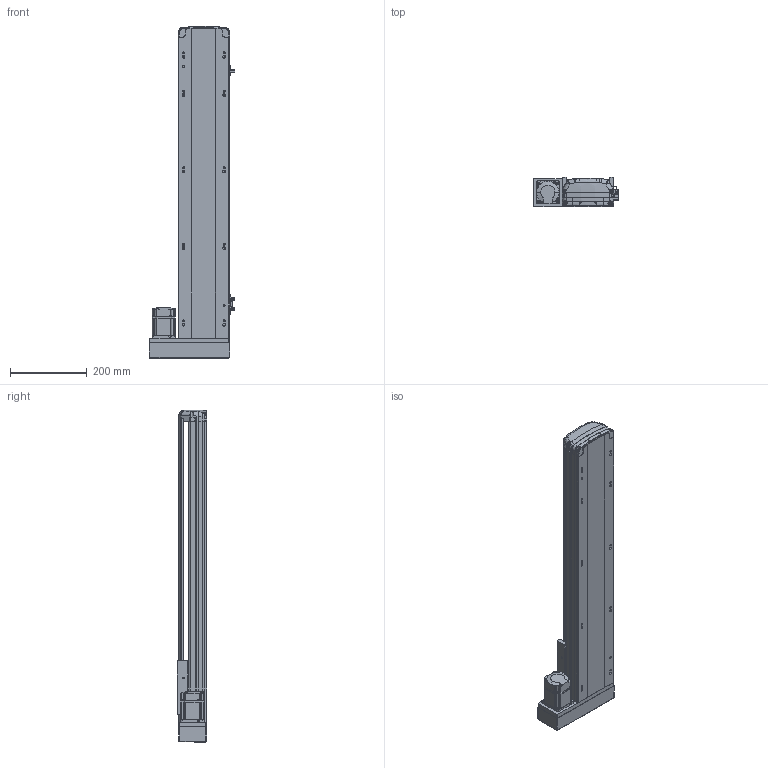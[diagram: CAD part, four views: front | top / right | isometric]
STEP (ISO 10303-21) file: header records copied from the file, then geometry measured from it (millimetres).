
FILE_DESCRIPTION (( 'STEP AP214' ), '1' );
FILE_NAME ('RTH14-XX-600-L-M20-C4.STEP', '2025-10-25T02:38:32', ( 'Microsoft' ), ( 'Microsoft' ), 'SwSTEP 2.0', 'SolidWorks 2018', '' );
FILE_SCHEMA (( 'AUTOMOTIVE_DESIGN' ));
Length unit declared in the file: millimetre
Products named in the file (10): N_RTH14-M-007P奻裔^RTH14-XX-XX-L-M20-C4; N_OMRON EE-SX672 传感器^RTH14-XX-XX-L-M20-C4; N_RTH14-R-004-SFSR16賑釱^RTH14-XX-XX-L-M20-C4; N_RTH13-L-018 裔赽^RTH14-XX-XX-L-M20-C4; N_MSMD022P1AA_200W^RTH14-XX-XX-L-M20-C4; N_RTH13-L-008-P20 萇儂啣酘蛌殏^RTH14-XX-XX-L-M20-C4; N_RTH14-M-011P菁釱^RTH14-XX-XX-L-M20-C4; N_RTH14-GY-001P^RTH14-XX-XX-L-M20-C4; N_RTH13-L-012感应片（外置）^RTH14-XX-XX-L-M20-C4; RTH14-XX-600-L-M20-C4
Assembly tree (11 placements, depth 2):
  RTH14-XX-600-L-M20-C4
    N_RTH14-M-011P菁釱^RTH14-XX-XX-L-M20-C4
    N_RTH14-M-007P奻裔^RTH14-XX-XX-L-M20-C4
    N_MSMD022P1AA_200W^RTH14-XX-XX-L-M20-C4
    N_RTH13-L-008-P20 萇儂啣酘蛌殏^RTH14-XX-XX-L-M20-C4
    N_RTH13-L-018 裔赽^RTH14-XX-XX-L-M20-C4
    N_RTH13-L-012感应片（外置）^RTH14-XX-XX-L-M20-C4
    N_OMRON EE-SX672 传感器^RTH14-XX-XX-L-M20-C4  x3
    N_RTH14-GY-001P^RTH14-XX-XX-L-M20-C4
    N_RTH14-R-004-SFSR16賑釱^RTH14-XX-XX-L-M20-C4
Bounding box: 224 x 78.03 x 867.37 mm (x, y, z)
Volume: 3955008.3 mm3; surface area: 925332.3 mm2
Topology: 11 solids, 11 shells, 1868 faces, 5219 edges, 3418 vertices
Faces by surface type: plane 989, cylinder 485, bspline 345, cone 45, torus 4
Entity records: 56981 total; most frequent: CARTESIAN_POINT 22997, ORIENTED_EDGE 7506, DIRECTION 6018, EDGE_CURVE 3753, VERTEX_POINT 2454, VECTOR 2154, LINE 2154, AXIS2_PLACEMENT_3D 1932
